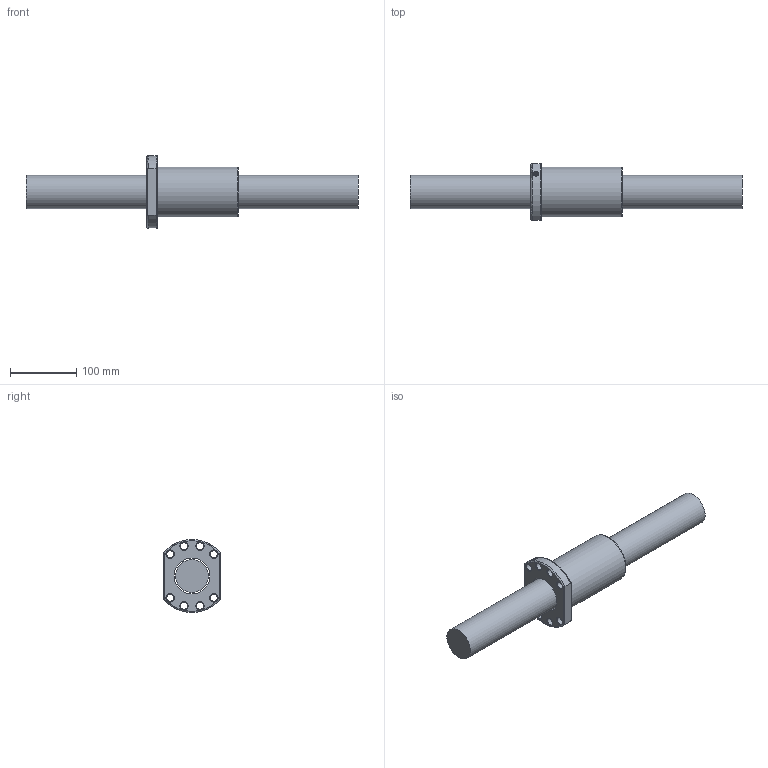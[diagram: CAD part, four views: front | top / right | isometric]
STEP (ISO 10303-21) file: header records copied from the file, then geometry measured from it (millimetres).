
FILE_DESCRIPTION (( 'STEP AP203' ), '1' );
FILE_NAME ('SFNU05020D-4.step', '2024-05-14T06:34:52', ( '' ), ( '' ), 'SwSTEP 2.0', 'SolidWorks 2022', '' );
FILE_SCHEMA (( 'CONFIG_CONTROL_DESIGN' ));
Length unit declared in the file: millimetre
Products named in the file (1): SFNU05020D-4
Bounding box: 500 x 85 x 109.65 mm (x, y, z)
Volume: 1325327.6 mm3; surface area: 154460.4 mm2
Topology: 2 solids, 2 shells, 59 faces, 152 edges, 98 vertices
Faces by surface type: cylinder 21, cone 17, plane 12, torus 5, bspline 4
Full cylindrical faces by diameter (mm): 4 x1, 7 x6, 11 x8, 50 x1, 53.9 x1, 75 x1
Entity records: 3336 total; most frequent: CARTESIAN_POINT 2174, DIRECTION 214, ORIENTED_EDGE 182, EDGE_LOOP 106, AXIS2_PLACEMENT_3D 99, EDGE_CURVE 91, VERTEX_POINT 75, FACE_OUTER_BOUND 68
